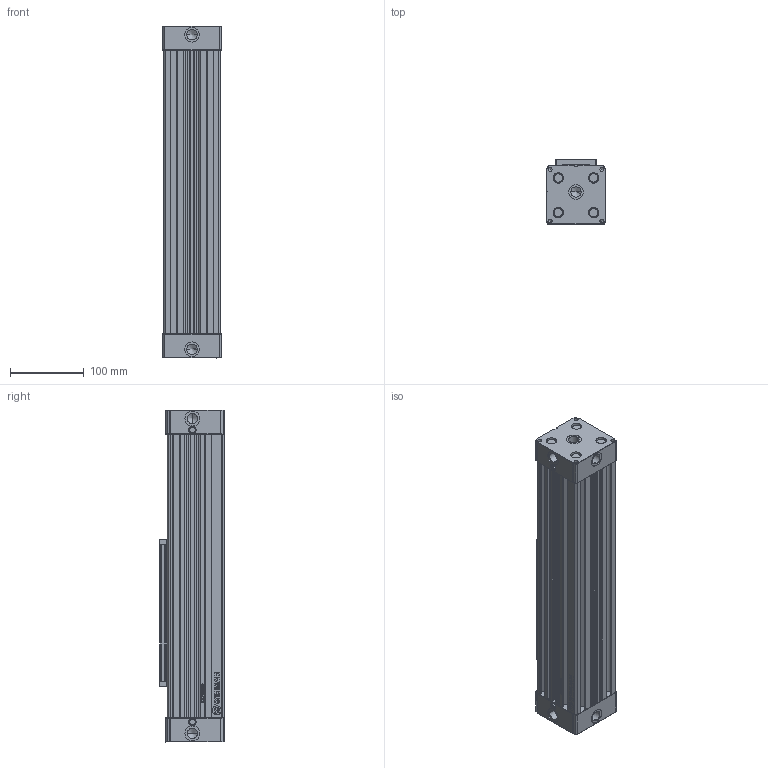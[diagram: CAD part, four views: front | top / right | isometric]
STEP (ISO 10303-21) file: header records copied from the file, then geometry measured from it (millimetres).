
FILE_DESCRIPTION (( 'STEP AP214' ), '1' );
FILE_NAME ('WRLF-050-0100 (3D).STEP', '2018-11-06T08:05:53', ( 'Hidtek' ), ( '' ), 'SwSTEP 2.0', 'SolidWorks 2016', '' );
FILE_SCHEMA (( 'AUTOMOTIVE_DESIGN' ));
Length unit declared in the file: millimetre
Products named in the file (3): WRLF-050-0100 (3D); Group2^WRLF-050-0100 (3D); Group1^WRLF-050-0100 (3D)
Assembly tree (2 placements, depth 2):
  WRLF-050-0100 (3D)
    Group1^WRLF-050-0100 (3D)
    Group2^WRLF-050-0100 (3D)
Bounding box: 80 x 88 x 450 mm (x, y, z)
Volume: 2438270.9 mm3; surface area: 347249.2 mm2
Topology: 17 solids, 25 shells, 1048 faces, 2738 edges, 1756 vertices
Faces by surface type: plane 554, cylinder 317, cone 108, bspline 69
Entity records: 38403 total; most frequent: CARTESIAN_POINT 9908, ORIENTED_EDGE 5388, DIRECTION 5244, EDGE_CURVE 2694, LINE 1836, VECTOR 1836, VERTEX_POINT 1756, AXIS2_PLACEMENT_3D 1704
